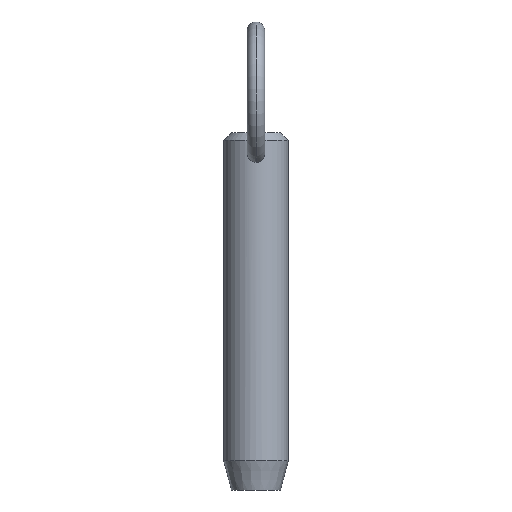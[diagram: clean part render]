
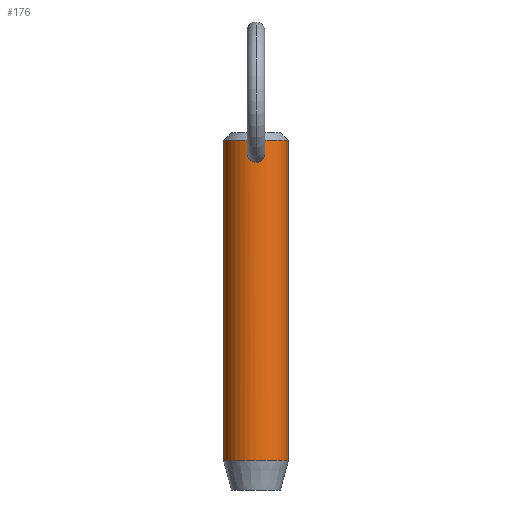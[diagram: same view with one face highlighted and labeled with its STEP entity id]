
A CAD part, front view. The second image highlights one B-rep face of the part: STEP entity #176.
In plain terms, the highlighted cylindrical face has radius 5.55 mm (diameter 11.1 mm), a partial arc.
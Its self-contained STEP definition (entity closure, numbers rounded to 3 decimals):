
#2 = ORIENTED_EDGE ( 'NONE', *, *, #455, .T. ) ;
#15 = ORIENTED_EDGE ( 'NONE', *, *, #251, .T. ) ;
#23 = ORIENTED_EDGE ( 'NONE', *, *, #334, .F. ) ;
#24 = DIRECTION ( 'NONE',  ( 1., 0., 0. ) ) ;
#29 = CARTESIAN_POINT ( 'NONE',  ( -1.485, -5.348, 43.879 ) ) ;
#30 = CARTESIAN_POINT ( 'NONE',  ( 5.55, 0., 45.75 ) ) ;
#32 = EDGE_LOOP ( 'NONE', ( #23, #390, #2, #239 ) ) ;
#34 = CARTESIAN_POINT ( 'NONE',  ( 0.214, -5.547, 45.428 ) ) ;
#38 = CARTESIAN_POINT ( 'NONE',  ( 0.941, -5.471, 45.007 ) ) ;
#44 = CARTESIAN_POINT ( 'NONE',  ( 0.107, -5.55, 41.977 ) ) ;
#49 = FACE_BOUND ( 'NONE', #508, .T. ) ;
#52 = VECTOR ( 'NONE', #211, 1000. ) ;
#60 = VERTEX_POINT ( 'NONE', #165 ) ;
#70 = AXIS2_PLACEMENT_3D ( 'NONE', #303, #109, #435 ) ;
#77 = CARTESIAN_POINT ( 'NONE',  ( 1.44, -5.36, 44.086 ) ) ;
#78 = CARTESIAN_POINT ( 'NONE',  ( -1.5, -5.343, 43.453 ) ) ;
#103 = DIRECTION ( 'NONE',  ( 0., 0., -1. ) ) ;
#104 = CARTESIAN_POINT ( 'NONE',  ( -0.107, -5.55, 41.977 ) ) ;
#107 = CARTESIAN_POINT ( 'NONE',  ( -1.26, -5.407, 42.642 ) ) ;
#108 = CARTESIAN_POINT ( 'NONE',  ( 1.477, -5.35, 43.244 ) ) ;
#109 = DIRECTION ( 'NONE',  ( 0., 0., 1. ) ) ;
#113 = CARTESIAN_POINT ( 'NONE',  ( -1.44, -5.36, 44.087 ) ) ;
#114 = CARTESIAN_POINT ( 'NONE',  ( 1.194, -5.422, 44.671 ) ) ;
#116 = VERTEX_POINT ( 'NONE', #214 ) ;
#118 = CARTESIAN_POINT ( 'NONE',  ( -5.55, 0., 40.7 ) ) ;
#149 = CARTESIAN_POINT ( 'NONE',  ( -0.416, -5.535, 45.367 ) ) ;
#151 = LINE ( 'NONE', #118, #317 ) ;
#154 = CARTESIAN_POINT ( 'NONE',  ( 0.523, -5.526, 42.066 ) ) ;
#156 = CARTESIAN_POINT ( 'NONE',  ( 0.716, -5.504, 42.152 ) ) ;
#163 = B_SPLINE_CURVE_WITH_KNOTS ( 'NONE', 3,
 ( #337, #104, #181, #294, #222, #332, #514, #471, #473, #107, #217, #227, #225, #78, #379, #29, #113, #382, #377, #432, #437, #191, #149, #429, #513, #259 ),
 .UNSPECIFIED., .F., .F.,
 ( 4, 2, 2, 2, 2, 2, 2, 2, 2, 2, 2, 2, 4 ),
 ( 0.01, 0.01, 0.01, 0.011, 0.011, 0.012, 0.012, 0.012, 0.013, 0.013, 0.014, 0.014, 0.015 ),
 .UNSPECIFIED. ) ;
#165 = CARTESIAN_POINT ( 'NONE',  ( 0., -5.55, 41.977 ) ) ;
#175 = CARTESIAN_POINT ( 'NONE',  ( 5.55, 0., 40.7 ) ) ;
#176 = ADVANCED_FACE ( 'NONE', ( #385, #49 ), #215, .T. ) ;
#181 = CARTESIAN_POINT ( 'NONE',  ( -0.212, -5.547, 41.988 ) ) ;
#185 = CARTESIAN_POINT ( 'NONE',  ( 0.417, -5.535, 45.367 ) ) ;
#189 = CARTESIAN_POINT ( 'NONE',  ( 0.106, -5.55, 45.445 ) ) ;
#191 = CARTESIAN_POINT ( 'NONE',  ( -0.513, -5.527, 45.323 ) ) ;
#211 = DIRECTION ( 'NONE',  ( 0., 0., -1. ) ) ;
#214 = CARTESIAN_POINT ( 'NONE',  ( -5.55, 0., 45.75 ) ) ;
#215 = CYLINDRICAL_SURFACE ( 'NONE', #483, 5.55 ) ;
#217 = CARTESIAN_POINT ( 'NONE',  ( -1.362, -5.381, 42.832 ) ) ;
#222 = CARTESIAN_POINT ( 'NONE',  ( -0.523, -5.526, 42.066 ) ) ;
#225 = CARTESIAN_POINT ( 'NONE',  ( -1.477, -5.35, 43.242 ) ) ;
#226 = CARTESIAN_POINT ( 'NONE',  ( 0., -5.55, 45.445 ) ) ;
#227 = CARTESIAN_POINT ( 'NONE',  ( -1.455, -5.356, 43.136 ) ) ;
#236 = VERTEX_POINT ( 'NONE', #256 ) ;
#239 = ORIENTED_EDGE ( 'NONE', *, *, #389, .T. ) ;
#251 = EDGE_CURVE ( 'NONE', #267, #60, #354, .T. ) ;
#253 = DIRECTION ( 'NONE',  ( 0., 0., -1. ) ) ;
#256 = CARTESIAN_POINT ( 'NONE',  ( 5.55, 0., -9.2 ) ) ;
#259 = CARTESIAN_POINT ( 'NONE',  ( 0., -5.55, 45.445 ) ) ;
#267 = VERTEX_POINT ( 'NONE', #336 ) ;
#268 = CARTESIAN_POINT ( 'NONE',  ( 0.213, -5.547, 41.988 ) ) ;
#277 = VERTEX_POINT ( 'NONE', #30 ) ;
#294 = CARTESIAN_POINT ( 'NONE',  ( -0.42, -5.535, 42.032 ) ) ;
#303 = CARTESIAN_POINT ( 'NONE',  ( 0., 0., -9.2 ) ) ;
#307 = CARTESIAN_POINT ( 'NONE',  ( 0.807, -5.492, 42.206 ) ) ;
#311 = CARTESIAN_POINT ( 'NONE',  ( 0., -5.55, 41.977 ) ) ;
#312 = CIRCLE ( 'NONE', #353, 5.55 ) ;
#317 = VECTOR ( 'NONE', #344, 1000. ) ;
#324 = CIRCLE ( 'NONE', #70, 5.55 ) ;
#332 = CARTESIAN_POINT ( 'NONE',  ( -0.716, -5.504, 42.152 ) ) ;
#333 = CARTESIAN_POINT ( 'NONE',  ( 0., 0., 40.7 ) ) ;
#334 = EDGE_CURVE ( 'NONE', #277, #236, #450, .T. ) ;
#336 = CARTESIAN_POINT ( 'NONE',  ( 0., -5.55, 45.445 ) ) ;
#337 = CARTESIAN_POINT ( 'NONE',  ( 0., -5.55, 41.977 ) ) ;
#341 = CARTESIAN_POINT ( 'NONE',  ( 1.503, -5.343, 43.559 ) ) ;
#343 = CARTESIAN_POINT ( 'NONE',  ( 1.363, -5.38, 42.834 ) ) ;
#344 = DIRECTION ( 'NONE',  ( 0., 0., -1. ) ) ;
#348 = EDGE_CURVE ( 'NONE', #277, #116, #312, .T. ) ;
#352 = ORIENTED_EDGE ( 'NONE', *, *, #416, .T. ) ;
#353 = AXIS2_PLACEMENT_3D ( 'NONE', #469, #253, #24 ) ;
#354 = B_SPLINE_CURVE_WITH_KNOTS ( 'NONE', 3,
 ( #226, #189, #34, #185, #519, #430, #38, #114, #475, #77, #516, #341, #387, #108, #378, #343, #383, #479, #521, #307, #156, #154, #484, #268, #44, #311 ),
 .UNSPECIFIED., .F., .F.,
 ( 4, 2, 2, 2, 2, 2, 2, 2, 2, 2, 2, 2, 4 ),
 ( 0.005, 0.005, 0.005, 0.006, 0.006, 0.007, 0.007, 0.008, 0.008, 0.009, 0.009, 0.009, 0.01 ),
 .UNSPECIFIED. ) ;
#374 = DIRECTION ( 'NONE',  ( -1., 0., 0. ) ) ;
#377 = CARTESIAN_POINT ( 'NONE',  ( -1.195, -5.421, 44.671 ) ) ;
#378 = CARTESIAN_POINT ( 'NONE',  ( 1.455, -5.356, 43.138 ) ) ;
#379 = CARTESIAN_POINT ( 'NONE',  ( -1.503, -5.343, 43.559 ) ) ;
#382 = CARTESIAN_POINT ( 'NONE',  ( -1.294, -5.398, 44.486 ) ) ;
#383 = CARTESIAN_POINT ( 'NONE',  ( 1.26, -5.407, 42.643 ) ) ;
#385 = FACE_OUTER_BOUND ( 'NONE', #32, .T. ) ;
#387 = CARTESIAN_POINT ( 'NONE',  ( 1.5, -5.343, 43.454 ) ) ;
#389 = EDGE_CURVE ( 'NONE', #497, #236, #324, .T. ) ;
#390 = ORIENTED_EDGE ( 'NONE', *, *, #348, .T. ) ;
#396 = CARTESIAN_POINT ( 'NONE',  ( -5.55, 0., -9.2 ) ) ;
#416 = EDGE_CURVE ( 'NONE', #60, #267, #163, .T. ) ;
#429 = CARTESIAN_POINT ( 'NONE',  ( -0.211, -5.547, 45.429 ) ) ;
#430 = CARTESIAN_POINT ( 'NONE',  ( 0.786, -5.497, 45.157 ) ) ;
#432 = CARTESIAN_POINT ( 'NONE',  ( -0.939, -5.472, 45.01 ) ) ;
#435 = DIRECTION ( 'NONE',  ( -1., 0., 0. ) ) ;
#437 = CARTESIAN_POINT ( 'NONE',  ( -0.785, -5.497, 45.158 ) ) ;
#450 = LINE ( 'NONE', #175, #52 ) ;
#455 = EDGE_CURVE ( 'NONE', #116, #497, #151, .T. ) ;
#469 = CARTESIAN_POINT ( 'NONE',  ( 0., 0., 45.75 ) ) ;
#471 = CARTESIAN_POINT ( 'NONE',  ( -0.976, -5.464, 42.331 ) ) ;
#473 = CARTESIAN_POINT ( 'NONE',  ( -1.054, -5.449, 42.404 ) ) ;
#475 = CARTESIAN_POINT ( 'NONE',  ( 1.295, -5.397, 44.482 ) ) ;
#479 = CARTESIAN_POINT ( 'NONE',  ( 1.055, -5.449, 42.405 ) ) ;
#483 = AXIS2_PLACEMENT_3D ( 'NONE', #333, #103, #374 ) ;
#484 = CARTESIAN_POINT ( 'NONE',  ( 0.421, -5.535, 42.032 ) ) ;
#497 = VERTEX_POINT ( 'NONE', #396 ) ;
#508 = EDGE_LOOP ( 'NONE', ( #15, #352 ) ) ;
#513 = CARTESIAN_POINT ( 'NONE',  ( -0.106, -5.55, 45.445 ) ) ;
#514 = CARTESIAN_POINT ( 'NONE',  ( -0.807, -5.492, 42.205 ) ) ;
#516 = CARTESIAN_POINT ( 'NONE',  ( 1.486, -5.347, 43.874 ) ) ;
#519 = CARTESIAN_POINT ( 'NONE',  ( 0.515, -5.527, 45.322 ) ) ;
#521 = CARTESIAN_POINT ( 'NONE',  ( 0.977, -5.464, 42.332 ) ) ;
